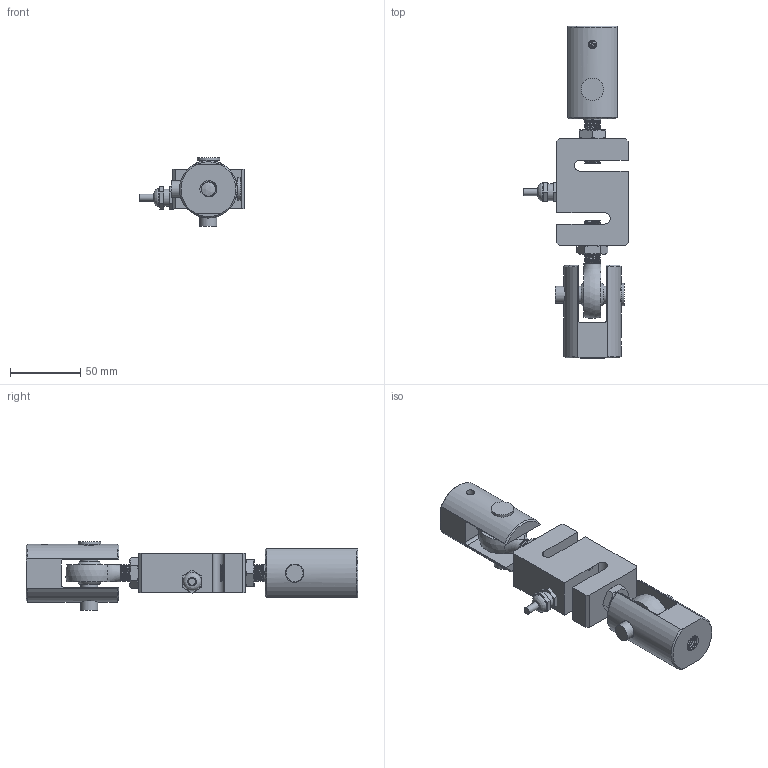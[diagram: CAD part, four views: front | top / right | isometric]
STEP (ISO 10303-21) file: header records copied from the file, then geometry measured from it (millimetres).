
FILE_DESCRIPTION(/* description */ (''),/* implementation_level */ '2;1');
FILE_NAME(/* name */ 'C:/Users/fardi/Dropbox/Work/Anyload/Load Cell Models/Product Catalog 3D/Weight Modules/101/101BHM2/101BHM2-(50-1500)kg v11.step',/* time_stamp */ '2020-05-13T10:20:05-07:00',/* author */ (''),/* organization */ (''),/* preprocessor_version */ 'ST-DEVELOPER v18.1',/* originating_system */ 'Autodesk Translation Framework v9.3.0.1241',/* authorisation */ '');
FILE_SCHEMA (('AUTOMOTIVE_DESIGN { 1 0 10303 214 3 1 1 }'));
Products named in the file (9): 101BHM2-(50-1500)kg; 101BH-(300-1500)kg; Connector v1; Eye Bolt; Eye Bolt v1(Mirror); End Mounts; 90695A115; End Mounts(Mirror); 90695A115(Mirror)
Assembly tree (8 placements, depth 3):
  101BHM2-(50-1500)kg
    101BH-(300-1500)kg
      Connector v1
    Eye Bolt
    Eye Bolt v1(Mirror)
    End Mounts
    90695A115
    End Mounts(Mirror)
    90695A115(Mirror)
Bounding box: 74.16 x 236 x 49 mm (x, y, z)
Volume: 210125.6 mm3; surface area: 68930.2 mm2
Topology: 10 solids, 12 shells, 396 faces, 1072 edges, 709 vertices
Faces by surface type: cylinder 227, plane 90, cone 40, bspline 29, sphere 6, torus 4
Full cylindrical faces by diameter (mm): 5.1 x1, 6 x2, 9.727 x2, 9.836 x34, 10 x1, 10.274 x36, 11.834 x34, 12 x9, 12.226 x36, 13 x5, 16 x2, 26.6 x1, 27.8 x2, 29.4 x2
Entity records: 35476 total; most frequent: CARTESIAN_POINT 26315, ORIENTED_EDGE 2160, DIRECTION 1426, EDGE_CURVE 1080, VERTEX_POINT 717, AXIS2_PLACEMENT_3D 549, B_SPLINE_CURVE_WITH_KNOTS 503, EDGE_LOOP 437
